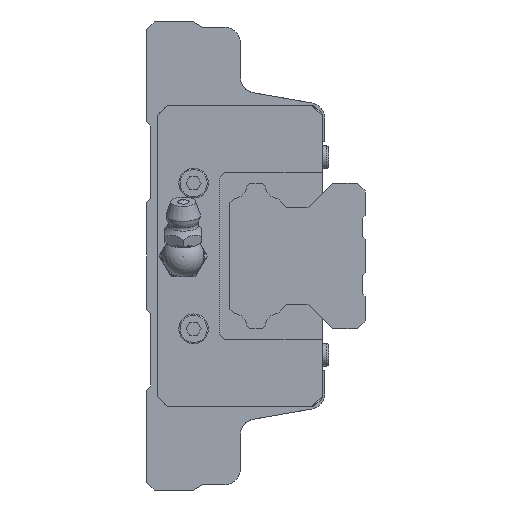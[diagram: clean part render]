
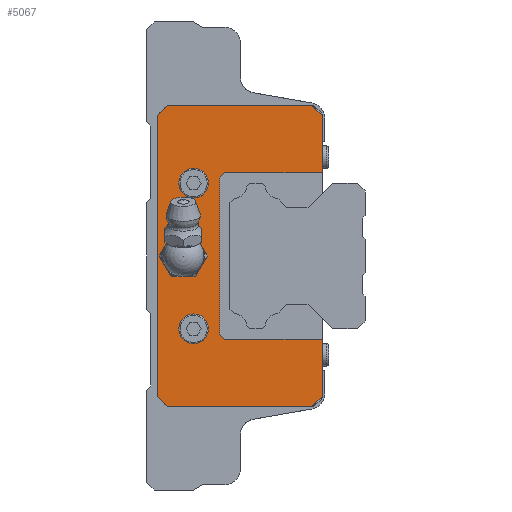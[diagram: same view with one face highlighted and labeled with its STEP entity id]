
A CAD part, left-side view. The second image highlights one B-rep face of the part: STEP entity #5067.
In plain terms, the highlighted planar face has unit normal (-1, 0, 0).
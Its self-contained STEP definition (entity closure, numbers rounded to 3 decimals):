
#243=CIRCLE('',#5509,3.);
#244=CIRCLE('',#5510,2.85);
#245=CIRCLE('',#5511,2.85);
#399=LINE('',#7467,#915);
#424=LINE('',#7523,#940);
#436=LINE('',#7549,#952);
#472=LINE('',#7625,#988);
#496=LINE('',#7671,#1012);
#514=LINE('',#7717,#1030);
#532=LINE('',#7754,#1048);
#671=LINE('',#8181,#1187);
#673=LINE('',#8184,#1189);
#680=LINE('',#8209,#1196);
#681=LINE('',#8212,#1197);
#682=LINE('',#8213,#1198);
#683=LINE('',#8215,#1199);
#684=LINE('',#8217,#1200);
#915=VECTOR('',#6039,1000.);
#940=VECTOR('',#6072,1000.);
#952=VECTOR('',#6092,1000.);
#988=VECTOR('',#6148,1000.);
#1012=VECTOR('',#6194,1000.);
#1030=VECTOR('',#6228,1000.);
#1048=VECTOR('',#6252,1000.);
#1187=VECTOR('',#6595,1000.);
#1189=VECTOR('',#6599,1000.);
#1196=VECTOR('',#6622,1000.);
#1197=VECTOR('',#6623,1000.);
#1198=VECTOR('',#6624,1000.);
#1199=VECTOR('',#6625,1000.);
#1200=VECTOR('',#6626,1000.);
#2206=ORIENTED_EDGE('',*,*,#3253,.T.);
#2207=ORIENTED_EDGE('',*,*,#3254,.F.);
#2208=ORIENTED_EDGE('',*,*,#3255,.F.);
#2209=ORIENTED_EDGE('',*,*,#3256,.T.);
#2210=ORIENTED_EDGE('',*,*,#3257,.T.);
#2211=ORIENTED_EDGE('',*,*,#3050,.F.);
#2212=ORIENTED_EDGE('',*,*,#3241,.T.);
#2213=ORIENTED_EDGE('',*,*,#2944,.F.);
#2214=ORIENTED_EDGE('',*,*,#2931,.F.);
#2215=ORIENTED_EDGE('',*,*,#3008,.F.);
#2216=ORIENTED_EDGE('',*,*,#2904,.F.);
#2217=ORIENTED_EDGE('',*,*,#2982,.F.);
#2218=ORIENTED_EDGE('',*,*,#3243,.T.);
#2219=ORIENTED_EDGE('',*,*,#3030,.F.);
#2220=ORIENTED_EDGE('',*,*,#3258,.T.);
#2221=ORIENTED_EDGE('',*,*,#3259,.T.);
#2222=ORIENTED_EDGE('',*,*,#3260,.T.);
#2904=EDGE_CURVE('',#3566,#3567,#399,.T.);
#2931=EDGE_CURVE('',#3593,#3594,#424,.T.);
#2944=EDGE_CURVE('',#3594,#3604,#436,.T.);
#2982=EDGE_CURVE('',#3633,#3566,#472,.T.);
#3008=EDGE_CURVE('',#3567,#3593,#496,.T.);
#3030=EDGE_CURVE('',#3664,#3665,#514,.T.);
#3050=EDGE_CURVE('',#3680,#3681,#532,.T.);
#3241=EDGE_CURVE('',#3680,#3604,#671,.T.);
#3243=EDGE_CURVE('',#3633,#3665,#673,.T.);
#3253=EDGE_CURVE('',#3826,#3826,#243,.T.);
#3254=EDGE_CURVE('',#3827,#3827,#244,.F.);
#3255=EDGE_CURVE('',#3828,#3828,#245,.F.);
#3256=EDGE_CURVE('',#3829,#3830,#680,.T.);
#3257=EDGE_CURVE('',#3830,#3681,#681,.T.);
#3258=EDGE_CURVE('',#3664,#3831,#682,.T.);
#3259=EDGE_CURVE('',#3831,#3832,#683,.T.);
#3260=EDGE_CURVE('',#3832,#3829,#684,.T.);
#3566=VERTEX_POINT('',#7466);
#3567=VERTEX_POINT('',#7468);
#3593=VERTEX_POINT('',#7522);
#3594=VERTEX_POINT('',#7524);
#3604=VERTEX_POINT('',#7550);
#3633=VERTEX_POINT('',#7624);
#3664=VERTEX_POINT('',#7716);
#3665=VERTEX_POINT('',#7718);
#3680=VERTEX_POINT('',#7753);
#3681=VERTEX_POINT('',#7755);
#3826=VERTEX_POINT('',#8204);
#3827=VERTEX_POINT('',#8206);
#3828=VERTEX_POINT('',#8208);
#3829=VERTEX_POINT('',#8210);
#3830=VERTEX_POINT('',#8211);
#3831=VERTEX_POINT('',#8214);
#3832=VERTEX_POINT('',#8216);
#4158=EDGE_LOOP('',(#2206));
#4159=EDGE_LOOP('',(#2207));
#4160=EDGE_LOOP('',(#2208));
#4161=EDGE_LOOP('',(#2209,#2210,#2211,#2212,#2213,#2214,#2215,#2216,#2217,
#2218,#2219,#2220,#2221,#2222));
#4529=FACE_BOUND('',#4158,.T.);
#4530=FACE_BOUND('',#4159,.T.);
#4531=FACE_BOUND('',#4160,.T.);
#4532=FACE_BOUND('',#4161,.T.);
#4823=PLANE('',#5508);
#5067=ADVANCED_FACE('',(#4529,#4530,#4531,#4532),#4823,.F.);
#5508=AXIS2_PLACEMENT_3D('',#8202,#6614,#6615);
#5509=AXIS2_PLACEMENT_3D('',#8203,#6616,#6617);
#5510=AXIS2_PLACEMENT_3D('',#8205,#6618,#6619);
#5511=AXIS2_PLACEMENT_3D('',#8207,#6620,#6621);
#6039=DIRECTION('',(0.,0.707,0.707));
#6072=DIRECTION('',(0.,-0.707,0.707));
#6092=DIRECTION('',(0.,-1.,0.));
#6148=DIRECTION('',(0.,1.,0.));
#6194=DIRECTION('',(0.,0.,1.));
#6228=DIRECTION('',(0.,0.,-1.));
#6252=DIRECTION('',(0.,0.,-1.));
#6595=DIRECTION('',(0.,0.707,0.707));
#6599=DIRECTION('',(0.,-0.707,0.707));
#6614=DIRECTION('',(1.,0.,0.));
#6615=DIRECTION('',(0.,0.,-1.));
#6616=DIRECTION('',(1.,0.,0.));
#6617=DIRECTION('',(0.,0.,-1.));
#6618=DIRECTION('',(1.,0.,0.));
#6619=DIRECTION('',(0.,0.,-1.));
#6620=DIRECTION('',(1.,0.,0.));
#6621=DIRECTION('',(0.,0.,-1.));
#6622=DIRECTION('',(0.,-0.707,0.707));
#6623=DIRECTION('',(0.,-1.,0.));
#6624=DIRECTION('',(0.,1.,0.));
#6625=DIRECTION('',(0.,0.707,0.707));
#6626=DIRECTION('',(0.,0.,1.));
#7466=CARTESIAN_POINT('',(-47.4,31.,-29.));
#7467=CARTESIAN_POINT('',(-47.4,31.,-29.));
#7468=CARTESIAN_POINT('',(-47.4,33.,-27.));
#7522=CARTESIAN_POINT('',(-47.4,33.,27.));
#7523=CARTESIAN_POINT('',(-47.4,33.,27.));
#7524=CARTESIAN_POINT('',(-47.4,31.,29.));
#7549=CARTESIAN_POINT('',(-47.4,35.,29.));
#7550=CARTESIAN_POINT('',(-47.4,3.283,29.));
#7624=CARTESIAN_POINT('',(-47.4,3.283,-29.));
#7625=CARTESIAN_POINT('',(-47.4,0.,-29.));
#7671=CARTESIAN_POINT('',(-47.4,33.,-27.));
#7716=CARTESIAN_POINT('',(-47.4,1.283,-16.));
#7717=CARTESIAN_POINT('',(-47.4,1.283,22.));
#7718=CARTESIAN_POINT('',(-47.4,1.283,-27.));
#7753=CARTESIAN_POINT('',(-47.4,1.283,27.));
#7754=CARTESIAN_POINT('',(-47.4,1.283,22.));
#7755=CARTESIAN_POINT('',(-47.4,1.283,16.));
#8181=CARTESIAN_POINT('',(-47.4,3.283,29.));
#8184=CARTESIAN_POINT('',(-47.4,1.283,-27.));
#8202=CARTESIAN_POINT('',(-47.4,0.,0.));
#8203=CARTESIAN_POINT('',(-47.4,28.,0.));
#8204=CARTESIAN_POINT('',(-47.4,28.,-3.));
#8205=CARTESIAN_POINT('',(-47.4,26.,14.));
#8206=CARTESIAN_POINT('',(-47.4,26.,11.15));
#8207=CARTESIAN_POINT('',(-47.4,26.,-14.));
#8208=CARTESIAN_POINT('',(-47.4,26.,-16.85));
#8209=CARTESIAN_POINT('',(-47.4,21.,15.));
#8210=CARTESIAN_POINT('',(-47.4,21.,15.));
#8211=CARTESIAN_POINT('',(-47.4,20.,16.));
#8212=CARTESIAN_POINT('',(-47.4,20.,16.));
#8213=CARTESIAN_POINT('',(-47.4,1.283,-16.));
#8214=CARTESIAN_POINT('',(-47.4,20.,-16.));
#8215=CARTESIAN_POINT('',(-47.4,20.,-16.));
#8216=CARTESIAN_POINT('',(-47.4,21.,-15.));
#8217=CARTESIAN_POINT('',(-47.4,21.,-15.));
